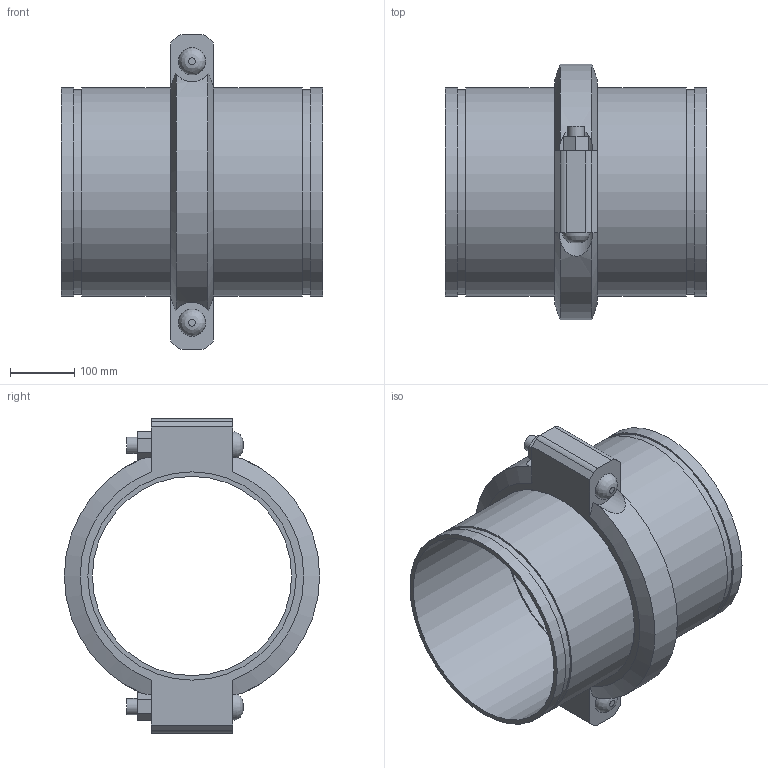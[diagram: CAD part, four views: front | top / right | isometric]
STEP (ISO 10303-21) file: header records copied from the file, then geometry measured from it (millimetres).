
FILE_DESCRIPTION(/* description */ ('VIC EXPANSION JOINT 1 COUPLING COMPRESSED STYLE 155 (OGS)','CAx-IF Rec.Pracs.---Representation and Presentation of Product Manufacturing Information (PMI)---4.0---2014-10-13'),/* implementation_level */ '2;1');
FILE_NAME(/* name */ 'C:\Users\kkamble\AppData\Roaming\Autodesk\ApplicationPlugins\Victaulic.Temp\A74\Victaulic_IPS_Expansion Joint_Compressed_1 Coupling_Style 155 (OGS)_12 (300).stp',/* time_stamp */ '2021-06-27T00:15:03+02:00',/* author */ ('kkamble'),/* organization */ ('Victaulic'),/* preprocessor_version */ 'ST-DEVELOPER v17.2',/* originating_system */ 'Autodesk Inventor 2019',/* authorisation */ '');
FILE_SCHEMA (('AP242_MANAGED_MODEL_BASED_3D_ENGINEERING_MIM_LF { 1 0 10303 442 1 1 4 }'));
Length unit declared in the file: inch
Products named in the file (3): 155-12.0; Nipple-12.0; 077-12.0
Assembly tree (3 placements, depth 2):
  155-12.0
    Nipple-12.0  x2
    077-12.0
Bounding box: 406.4 x 397 x 488.95 mm (x, y, z)
Volume: 6110769.4 mm3; surface area: 1166787.4 mm2
Topology: 3 solids, 5 shells, 81 faces, 199 edges, 142 vertices
Faces by surface type: plane 46, cylinder 29, cone 4, bspline 2
Full cylindrical faces by diameter (mm): 25.4 x4, 27.432 x2, 309.677 x2, 318.287 x4, 323.85 x7
Entity records: 2463 total; most frequent: CARTESIAN_POINT 570, DIRECTION 363, ORIENTED_EDGE 338, EDGE_CURVE 169, AXIS2_PLACEMENT_3D 141, VERTEX_POINT 118, EDGE_LOOP 87, LINE 81
